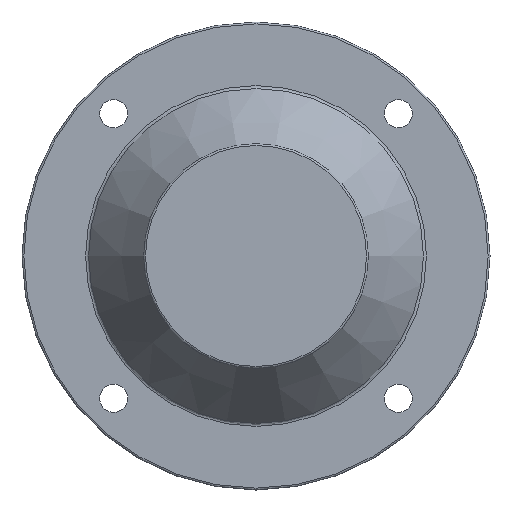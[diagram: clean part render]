
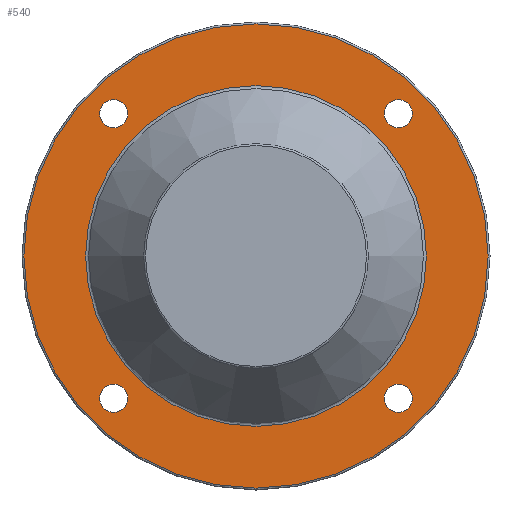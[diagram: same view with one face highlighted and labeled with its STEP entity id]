
A CAD part, left-side view. The second image highlights one B-rep face of the part: STEP entity #540.
In plain terms, the highlighted planar face has unit normal (-1, 0, 0).
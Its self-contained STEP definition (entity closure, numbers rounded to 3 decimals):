
#254=CARTESIAN_POINT('',(86.,83.514,-76.014));
#255=VERTEX_POINT('',#254);
#256=CARTESIAN_POINT('',(86.,76.014,-76.014));
#257=DIRECTION('',(1.0,0.0,0.0));
#258=DIRECTION('',(0.0,1.0,0.0));
#259=AXIS2_PLACEMENT_3D('',#256,#257,#258);
#260=CIRCLE('',#259,7.5);
#261=EDGE_CURVE('',#255,#255,#260,.T.);
#303=CARTESIAN_POINT('',(86.,-68.514,-76.014));
#304=VERTEX_POINT('',#303);
#305=CARTESIAN_POINT('',(86.,-76.014,-76.014));
#306=DIRECTION('',(1.0,0.0,0.0));
#307=DIRECTION('',(0.0,1.0,0.0));
#308=AXIS2_PLACEMENT_3D('',#305,#306,#307);
#309=CIRCLE('',#308,7.5);
#310=EDGE_CURVE('',#304,#304,#309,.T.);
#352=CARTESIAN_POINT('',(86.,-68.514,76.014));
#353=VERTEX_POINT('',#352);
#354=CARTESIAN_POINT('',(86.,-76.014,76.014));
#355=DIRECTION('',(1.0,0.0,0.0));
#356=DIRECTION('',(0.0,1.0,0.0));
#357=AXIS2_PLACEMENT_3D('',#354,#355,#356);
#358=CIRCLE('',#357,7.5);
#359=EDGE_CURVE('',#353,#353,#358,.T.);
#401=CARTESIAN_POINT('',(86.,83.514,76.014));
#402=VERTEX_POINT('',#401);
#403=CARTESIAN_POINT('',(86.,76.014,76.014));
#404=DIRECTION('',(1.0,0.0,0.0));
#405=DIRECTION('',(0.0,1.0,0.0));
#406=AXIS2_PLACEMENT_3D('',#403,#404,#405);
#407=CIRCLE('',#406,7.5);
#408=EDGE_CURVE('',#402,#402,#407,.T.);
#477=CARTESIAN_POINT('',(86.,91.021,0.));
#478=VERTEX_POINT('',#477);
#479=CARTESIAN_POINT('',(86.,0.0,0.0));
#480=DIRECTION('',(-1.0,0.0,0.0));
#481=DIRECTION('',(0.0,-1.0,0.0));
#482=AXIS2_PLACEMENT_3D('',#479,#480,#481);
#483=CIRCLE('',#482,91.021);
#484=EDGE_CURVE('',#478,#478,#483,.T.);
#509=CARTESIAN_POINT('',(86.,107.5,0.));
#510=DIRECTION('',(-1.0,0.0,0.0));
#511=DIRECTION('',(0.0,0.0,1.0));
#512=AXIS2_PLACEMENT_3D('',#509,#510,#511);
#513=PLANE('',#512);
#514=CARTESIAN_POINT('',(86.,124.0,0.0));
#515=VERTEX_POINT('',#514);
#516=CARTESIAN_POINT('',(86.,0.0,0.0));
#517=DIRECTION('',(1.0,0.0,0.0));
#518=DIRECTION('',(0.0,-1.0,0.0));
#519=AXIS2_PLACEMENT_3D('',#516,#517,#518);
#520=CIRCLE('',#519,124.0);
#521=EDGE_CURVE('',#515,#515,#520,.T.);
#522=ORIENTED_EDGE('',*,*,#521,.F.);
#523=EDGE_LOOP('',(#522));
#524=FACE_OUTER_BOUND('',#523,.T.);
#525=ORIENTED_EDGE('',*,*,#261,.T.);
#526=EDGE_LOOP('',(#525));
#527=FACE_BOUND('',#526,.T.);
#528=ORIENTED_EDGE('',*,*,#310,.T.);
#529=EDGE_LOOP('',(#528));
#530=FACE_BOUND('',#529,.T.);
#531=ORIENTED_EDGE('',*,*,#359,.T.);
#532=EDGE_LOOP('',(#531));
#533=FACE_BOUND('',#532,.T.);
#534=ORIENTED_EDGE('',*,*,#408,.T.);
#535=EDGE_LOOP('',(#534));
#536=FACE_BOUND('',#535,.T.);
#537=ORIENTED_EDGE('',*,*,#484,.F.);
#538=EDGE_LOOP('',(#537));
#539=FACE_BOUND('',#538,.T.);
#540=ADVANCED_FACE('',(#524,#527,#530,#533,#536,#539),#513,.T.);
